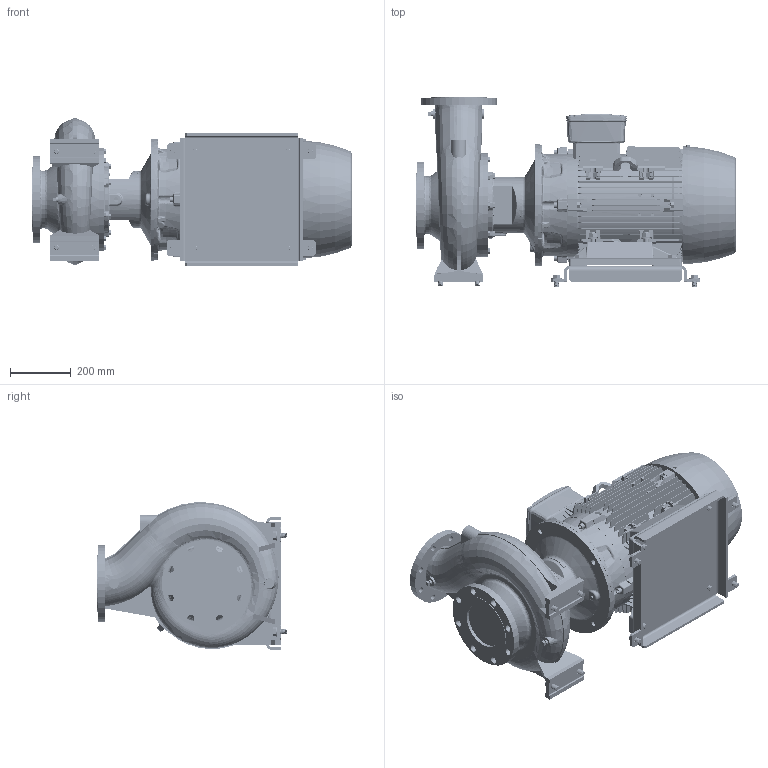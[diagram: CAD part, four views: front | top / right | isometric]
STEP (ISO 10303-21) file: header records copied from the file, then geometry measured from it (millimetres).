
FILE_DESCRIPTION (( 'STEP AP214' ), '1' );
FILE_NAME ('GSD4 125-250_30_(200ML)_W21.STEP', '2026-07-01T05:09:10', ( '' ), ( '' ), 'SwSTEP 2.0', 'SolidWorks 2024', '' );
FILE_SCHEMA (( 'AUTOMOTIVE_DESIGN' ));
Length unit declared in the file: millimetre
Products named in the file (11): Parametric bolt_SFT-A359B; Parametric bolt and washer_SFT-A359B; Parametric bolt_SFT-A353B; Parametric bolt and washer_SFT-A353B; GSD4 125-250_30_(200ML)_W21; CGS11-5272; Parametric bolt_SFT-A351B; 200M_L ALIE3_W21T_B35; Parametric bolt and washer_SFT-A351B; 125-250-200M_L_ﾃﾞﾌｫﾙﾄ; Parametric Flat Washer_M16
Assembly tree (22 placements, depth 3):
  GSD4 125-250_30_(200ML)_W21
    125-250-200M_L_ﾃﾞﾌｫﾙﾄ
    CGS11-5272
    Parametric bolt and washer_SFT-A353B  x4
      Parametric bolt_SFT-A353B
      Parametric Flat Washer_M16
    Parametric bolt and washer_SFT-A351B  x4
      Parametric bolt_SFT-A351B
      Parametric Flat Washer_M16
    200M_L ALIE3_W21T_B35  x2
    Parametric bolt and washer_SFT-A359B  x4
      Parametric bolt_SFT-A359B
      Parametric Flat Washer_M16
Bounding box: 1048.8 x 623 x 483.44 mm (x, y, z)
Volume: 167627213.5 mm3; surface area: 8030506.8 mm2
Topology: 75 solids, 95 shells, 13338 faces, 34430 edges, 22099 vertices
Faces by surface type: plane 8125, cylinder 2041, bspline 1844, cone 1066, torus 258, sphere 4
Entity records: 309114 total; most frequent: CARTESIAN_POINT 148353, ORIENTED_EDGE 35884, DIRECTION 29012, EDGE_CURVE 17942, VERTEX_POINT 11554, LINE 11016, VECTOR 11016, AXIS2_PLACEMENT_3D 8998
